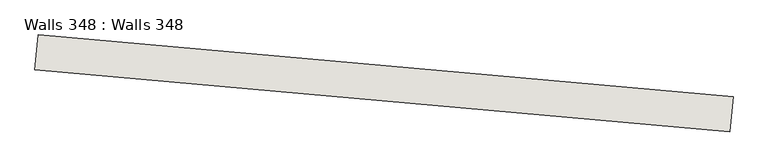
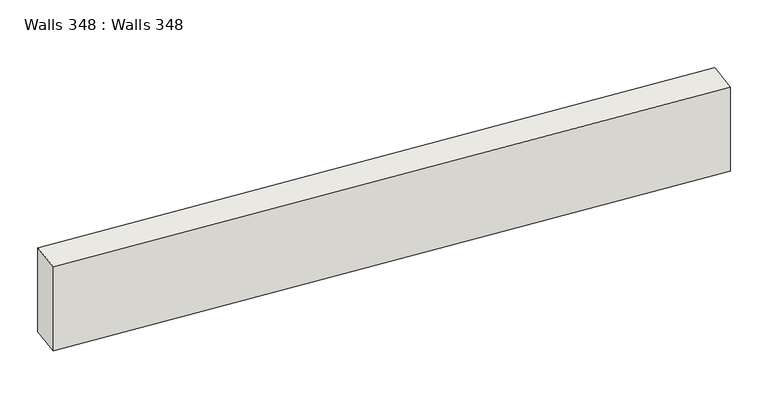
"""IFC4 building model written with IfcOpenShell, lengths in millimetres: wall geometry, Walls 348 : Walls 348."""

from ifc_helpers import new_model, si_unit, frame, origin, place, context, project, spatial, polyline, outline, extrude, source, transform, mapped, element, save


def walls_348_walls_348_57c8c6b2(model_context):
    return source(origin(), model_context, "Body", "SweptSolid", [
        extrude(outline(polyline([(-750333.8193474, -411832.5992884), (-750369.3142775, -412231.0213133), (-758337.7547759, -411521.122712), (-758302.2598458, -411122.7006871), (-750333.8193474, -411832.5992884)])), frame((0.0, 0.0, 635860.0), z_axis=(0.0, 0.0, 1.0), x_axis=(1.0, 0.0, 0.0)), (0.0, 0.0, 1.0), 1100.0),
    ])


if __name__ == "__main__":
    model = new_model("IFC4")
    model_context = context("Model", 3, world=origin())
    ifc_project = project(units=[si_unit("LENGTHUNIT", "METRE", prefix="MILLI")], contexts=[model_context])
    site = spatial("IfcSite", under=ifc_project)
    building = spatial("IfcBuilding", under=site)
    placement = place(None, origin())
    walls_348_walls_348_shape = walls_348_walls_348_57c8c6b2(model_context)
    element("IfcWall", 1, ObjectType="Walls 348 : Walls 348", at=placement, inside=building, context=model_context, shape_type="MappedRepresentation", body=[
        mapped(walls_348_walls_348_shape, transform((0.0, 0.0, 0.0), x_axis=(1.0, 0.0, 0.0), y_axis=(0.0, 1.0, 0.0), z_axis=(0.0, 0.0, 1.0))),
    ])
    save(model, "model.ifc")
